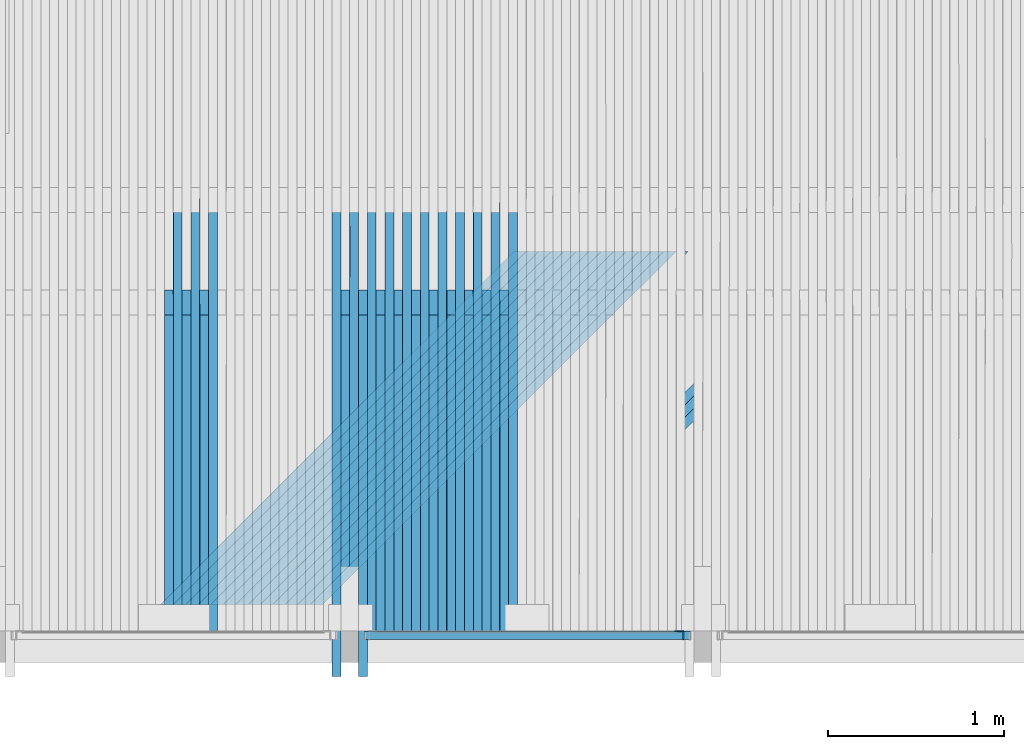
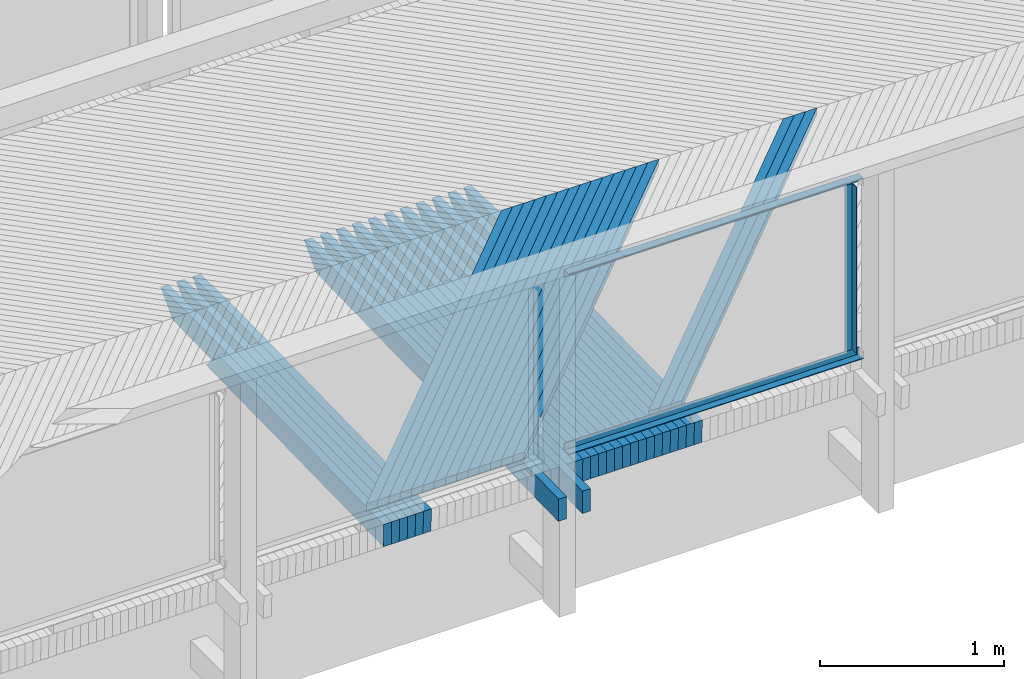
# One storey, part 32 of 65: 47 beams.
"""IFC2X3 building model written with IfcOpenShell, lengths in millimetres."""

from ifc_helpers import new_model, si_unit, frame, origin_with_axes, place, context, subcontext, project, spatial, faceted_brep, material, type_object, element, save


model = new_model("IFC2X3")

# Units and contexts
model_context = context("Model", 3, precision=1e-05, world=origin_with_axes())
body_context = subcontext(model_context, "Body", "Model", "MODEL_VIEW")
ifc_project = project(units=[si_unit("LENGTHUNIT", "METRE", prefix="MILLI"), si_unit("AREAUNIT", "SQUARE_METRE"), si_unit("VOLUMEUNIT", "CUBIC_METRE"), si_unit("MASSUNIT", "GRAM", prefix="KILO"), si_unit("TIMEUNIT", "SECOND"), si_unit("PLANEANGLEUNIT", "RADIAN"), si_unit("SOLIDANGLEUNIT", "STERADIAN"), si_unit("THERMODYNAMICTEMPERATUREUNIT", "DEGREE_CELSIUS"), si_unit("LUMINOUSINTENSITYUNIT", "LUMEN")], contexts=[model_context])

# Site, building, storey
site_placement = place(None, origin_with_axes())
site = spatial("IfcSite", under=ifc_project, at=site_placement, Name="Undefined", CompositionType="ELEMENT")
building_placement = place(site_placement, origin_with_axes())
building = spatial("IfcBuilding", under=site, at=building_placement, Name="Undefined", CompositionType="ELEMENT")
storey_placement = place(building_placement, origin_with_axes())
storey = spatial("IfcBuildingStorey", under=building, at=storey_placement, Name="Undefined", CompositionType="ELEMENT", Elevation=0.0)

# Beams
ifc_material_1 = material(Name="STEEL/S235JR")
beam_type_1 = type_object("IfcBeamType", Name="L50*5", PredefinedType="NOTDEFINED")
beam_1_placement = place(storey_placement, frame((11867.5024948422, 20190.01, 4403.68498261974), z_axis=(0.0, -1.0, 0.0), x_axis=(0.0, 0.0, -1.0)))
element("IfcBeam", 1, at=beam_1_placement, inside=storey, type_object=beam_type_1, material=ifc_material_1, Name="BEAM", ObjectType="L50*5", context=body_context, shape_type="Brep", body=[
    faceted_brep([(0.0, 25.0, -25.0), (0.0, 25.0, 25.0), (1099.9997751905, 25.0, 25.0), (1099.9997751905, 25.0, -25.0), (0.0, 20.0, 25.0), (1099.9997751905, 20.0, 25.0), (0.0, 20.0, -20.0), (1099.9997751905, 20.0, -20.0), (0.0, -25.0, -20.0), (1099.9997751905, -25.0, -20.0), (0.0, -25.0, -25.0), (1099.9997751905, -25.0, -25.0)], [[[0, 1, 2, 3]], [[1, 4, 5, 2]], [[4, 6, 7, 5]], [[6, 8, 9, 7]], [[8, 10, 11, 9]], [[10, 0, 3, 11]], [[5, 7, 9, 11, 3, 2]], [[10, 8, 6, 4, 1, 0]]]),
])
for number, where, z_axis, x_axis, name in (
    (2, (11932.1221121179, 20190.0100000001, 3278.48806628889), (0.0, -1.0, 0.0), (-0.999987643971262, 0.0, 0.00497110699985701), "BEAM"),
    (3, (10082.8790300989, 20190.0100000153, 4437.68111100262), (0.0, -1.0, 0.0), (0.999987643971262, 0.0, -0.00497110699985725), "BEAM"),
):
    element("IfcBeam", number, at=place(storey_placement, frame(where, z_axis=z_axis, x_axis=x_axis)), inside=storey, type_object=beam_type_1, material=ifc_material_1, Name=name, ObjectType="L50*5", context=body_context, shape_type="Brep", body=[
        faceted_brep([(0.0, 25.0, -25.0), (0.0, 25.0, 25.0), (1849.01737315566, 25.0, 25.0), (1849.01737315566, 25.0, -25.0), (0.0, 20.0, 25.0), (1849.01737315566, 20.0, 25.0), (0.0, 20.0, -20.0), (1849.01737315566, 20.0, -20.0), (0.0, -25.0, -20.0), (1849.01737315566, -25.0, -20.0), (0.0, -25.0, -25.0), (1849.01737315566, -25.0, -25.0)], [[[0, 1, 2, 3]], [[1, 4, 5, 2]], [[4, 6, 7, 5]], [[6, 8, 9, 7]], [[8, 10, 11, 9]], [[10, 0, 3, 11]], [[5, 7, 9, 11, 3, 2]], [[10, 8, 6, 4, 1, 0]]]),
    ])
ifc_material_2 = material(Name="TIMBER/Timber_Undefined")
beam_type_2 = type_object("IfcBeamType", Name="50*50", PredefinedType="NOTDEFINED")
for number, where, z_axis, x_axis, name in (
    (4, (12874.2769605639, 22364.5001003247, 3216.39230435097), (0.70698710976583, -0.706981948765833, -0.0185943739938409), (-0.707198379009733, -0.70694885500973, -0.0096834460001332), "BEAM"),
    (5, (12803.5550110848, 22364.5001003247, 3216.96068661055), (0.706989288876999, -0.706981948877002, -0.0185113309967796), (-0.707197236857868, -0.706948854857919, -0.00976651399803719), "BEAM"),
    (6, (12732.832995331, 22364.5001003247, 3217.52076181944), (0.706991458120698, -0.706981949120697, -0.0184282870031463), (-0.707196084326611, -0.706948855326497, -0.00984958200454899), "BEAM"),
    (7, (11884.1639920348, 22364.5001003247, 3223.59371167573), (0.707016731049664, -0.706981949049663, -0.0174317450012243), (-0.707181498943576, -0.706948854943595, -0.0108463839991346), "BEAM"),
    (8, (11813.441203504, 22364.5001003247, 3224.04579456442), (0.707018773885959, -0.706981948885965, -0.0173486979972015), (-0.707180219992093, -0.706948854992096, -0.0109294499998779), "BEAM"),
    (9, (11742.718362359, 22364.5001003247, 3224.48957030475), (0.707020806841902, -0.706981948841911, -0.0172656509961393), (-0.707178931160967, -0.706948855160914, -0.0110125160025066), "BEAM"),
    (10, (11671.9954695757, 22364.5001003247, 3224.92503889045), (0.707022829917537, -0.706981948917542, -0.017182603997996), (-0.707177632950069, -0.706948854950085, -0.0110955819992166), "BEAM"),
    (11, (11601.2725261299, 22364.5001003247, 3225.35220031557), (0.707024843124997, -0.706981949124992, -0.0170995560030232), (-0.707176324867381, -0.706948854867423, -0.0111786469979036), "BEAM"),
    (12, (11530.5495329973, 22364.5001003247, 3225.7710545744), (0.707026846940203, -0.706981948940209, -0.0170165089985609), (-0.707175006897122, -0.706948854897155, -0.0112617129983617), "BEAM"),
    (13, (11459.8264911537, 22364.5001003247, 3226.18160166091), (0.7070288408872, -0.706981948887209, -0.0169334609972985), (-0.707173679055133, -0.706948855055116, -0.0113447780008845), "BEAM"),
    (14, (11389.1034015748, 22364.5001003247, 3226.58384156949), (0.70703082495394, -0.706981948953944, -0.0168504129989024), (-0.70717234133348, -0.706948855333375, -0.011427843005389), "BEAM"),
    (15, (11318.3802652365, 22364.5001003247, 3226.97777429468), (0.707032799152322, -0.706981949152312, -0.0167673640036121), (-0.707170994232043, -0.70694885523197, -0.011510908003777), "BEAM"),
    (16, (11247.6570831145, 22364.5001003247, 3227.363399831), (0.707034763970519, -0.706981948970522, -0.0166843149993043), (-0.707169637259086, -0.706948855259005, -0.0115939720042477), "BEAM"),
    (17, (11176.9338561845, 22364.5001003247, 3227.7407181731), (0.707036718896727, -0.706981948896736, -0.0166012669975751), (-0.707168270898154, -0.706948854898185, -0.0116770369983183), "BEAM"),
    (18, (11106.2105854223, 22364.5001003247, 3228.10972931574), (0.707038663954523, -0.706981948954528, -0.0165182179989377), (-0.707166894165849, -0.706948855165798, -0.011760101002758), "BEAM"),
    (19, (11035.4872718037, 22364.5001003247, 3228.47043325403), (0.707040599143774, -0.706981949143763, -0.016435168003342), (-0.707165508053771, -0.706948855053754, -0.0118431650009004), "BEAM"),
    (20, (10964.7639163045, 22364.5001003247, 3228.82282998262), (0.707042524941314, -0.706981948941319, -0.0163521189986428), (-0.707164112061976, -0.706948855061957, -0.0119262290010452), "BEAM"),
):
    element("IfcBeam", number, at=place(storey_placement, frame(where, z_axis=z_axis, x_axis=x_axis)), inside=storey, type_object=beam_type_2, material=ifc_material_2, Name=name, ObjectType="50*50", context=body_context, shape_type="Brep", body=[
        faceted_brep([(24.8942457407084, 25.0000000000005, -25.0000000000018), (-25.0086637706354, 24.9999999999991, 25.0), (2804.3406783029, 25.0, 25.0000000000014), (2854.34301907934, 24.9999999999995, -25.0), (-26.4222658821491, -25.0000000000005, 25.0), (2802.92643296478, -25.0, 25.0000000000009), (23.4806436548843, -24.9999999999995, -25.0000000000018), (2852.92877373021, -25.0000000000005, -24.9999999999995)], [[[0, 1, 2, 3]], [[1, 4, 5, 2]], [[4, 6, 7, 5]], [[6, 0, 3, 7]], [[5, 7, 3, 2]], [[6, 4, 1, 0]]]),
    ])
beam_type_3 = type_object("IfcBeamType", Name="150*50", PredefinedType="NOTDEFINED")
beam_2_placement = place(storey_placement, frame((10875.1411031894, 20216.5046076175, 3086.28180497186), z_axis=(0.00469590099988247, -0.0199960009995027, 0.99978903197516), x_axis=(9.39180000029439e-05, 0.999800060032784, 0.0199957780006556)))
element("IfcBeam", 21, at=beam_2_placement, inside=storey, type_object=beam_type_3, material=ifc_material_2, Name="BEAM", ObjectType="150*50", context=body_context, shape_type="Brep", body=[
    faceted_brep([(-1.6778358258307e-07, -24.9999999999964, -74.9999999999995), (1.67790858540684e-07, -24.9999999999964, 75.0000000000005), (1.67790858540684e-07, 25.0000000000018, 74.9999999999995), (-1.6778358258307e-07, 25.0000000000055, -75.0), (1789.96936433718, -25.0000000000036, 74.9999999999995), (1789.96936408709, 24.9999999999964, 75.0), (1928.42646328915, 24.9999999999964, -75.0), (1928.42646353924, -25.0, -75.0000000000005)], [[[0, 1, 2, 3]], [[2, 1, 4, 5]], [[3, 2, 5, 6]], [[0, 3, 6, 7]], [[1, 0, 7, 4]], [[6, 5, 4, 7]]]),
])
beam_3_placement = place(storey_placement, frame((10925.1605446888, 20216.5046076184, 3086.03855962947), z_axis=(0.00486202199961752, -0.0199960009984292, 0.999788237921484), x_axis=(9.72400000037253e-05, 0.999800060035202, 0.019995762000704)))
element("IfcBeam", 22, at=beam_3_placement, inside=storey, type_object=beam_type_3, material=ifc_material_2, Name="BEAM", ObjectType="150*50", context=body_context, shape_type="Brep", body=[
    faceted_brep([(-1.6778358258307e-07, -24.9999999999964, -74.9999999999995), (1.67790858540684e-07, -24.9999999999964, 75.0000000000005), (1.67790858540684e-07, 25.0000000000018, 74.9999999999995), (-1.6778358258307e-07, 25.0000000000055, -75.0), (2375.00494422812, 25.0000000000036, -75.0), (2375.00494447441, -24.9999999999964, -74.9999999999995), (2510.59248714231, -24.9999999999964, 60.5875430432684), (2150.42514405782, -24.9999999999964, 75.0000000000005), (2150.42515052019, 25.0000000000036, 74.9999999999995), (2510.59248715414, 25.0000000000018, 60.5875433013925)], [[[0, 1, 2, 3]], [[0, 3, 4, 5]], [[1, 0, 5, 6, 7]], [[2, 1, 7, 8]], [[4, 3, 2, 8, 9]], [[5, 4, 9, 6]], [[6, 9, 8, 7]]]),
])
beam_4_placement = place(storey_placement, frame((10775.1221713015, 20216.5046076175, 3086.75121569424), z_axis=(0.00452978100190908, -0.01999600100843, 0.999789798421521), x_axis=(9.05950000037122e-05, 0.999800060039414, 0.0199957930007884)))
element("IfcBeam", 23, at=beam_4_placement, inside=storey, type_object=beam_type_3, material=ifc_material_2, Name="BEAM", ObjectType="150*50", context=body_context, shape_type="Brep", body=[
    faceted_brep([(-1.6778358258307e-07, -24.9999999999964, -74.9999999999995), (1.67790858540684e-07, -24.9999999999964, 75.0000000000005), (1.67790858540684e-07, 25.0000000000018, 74.9999999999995), (-1.6778358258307e-07, 25.0000000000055, -75.0), (1789.96936433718, -25.0000000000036, 74.9999999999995), (1789.96936408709, 24.9999999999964, 75.0), (1928.42646328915, 24.9999999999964, -75.0), (1928.42646353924, -25.0, -75.0000000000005)], [[[0, 1, 2, 3]], [[2, 1, 4, 5]], [[3, 2, 5, 6]], [[0, 3, 6, 7]], [[1, 0, 7, 4]], [[6, 5, 4, 7]]]),
])
beam_5_placement = place(storey_placement, frame((10825.141652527, 20216.5046076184, 3086.51628135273), z_axis=(0.00469590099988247, -0.0199960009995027, 0.99978903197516), x_axis=(9.39180000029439e-05, 0.999800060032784, 0.0199957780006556)))
element("IfcBeam", 24, at=beam_5_placement, inside=storey, type_object=beam_type_3, material=ifc_material_2, Name="BEAM", ObjectType="150*50", context=body_context, shape_type="Brep", body=[
    faceted_brep([(-1.6778358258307e-07, -24.9999999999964, -74.9999999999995), (1.67790858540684e-07, -24.9999999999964, 75.0000000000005), (1.67790858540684e-07, 25.0000000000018, 74.9999999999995), (-1.6778358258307e-07, 25.0000000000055, -75.0), (2375.00494422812, 25.0000000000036, -75.0), (2375.00494447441, -24.9999999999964, -74.9999999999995), (2510.59248714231, -24.9999999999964, 60.5875430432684), (2150.42514405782, -24.9999999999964, 75.0000000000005), (2150.42515052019, 25.0000000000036, 74.9999999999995), (2510.59248715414, 25.0000000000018, 60.5875433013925)], [[[0, 1, 2, 3]], [[0, 3, 4, 5]], [[1, 0, 5, 6, 7]], [[2, 1, 7, 8]], [[4, 3, 2, 8, 9]], [[5, 4, 9, 6]], [[6, 9, 8, 7]]]),
])
beam_6_placement = place(storey_placement, frame((10675.1031627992, 20216.5046076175, 3087.20400773), z_axis=(0.00436366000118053, -0.0199960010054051, 0.999790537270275), x_axis=(8.72730000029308e-05, 0.999800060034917, 0.0199958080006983)))
element("IfcBeam", 25, at=beam_6_placement, inside=storey, type_object=beam_type_3, material=ifc_material_2, Name="BEAM", ObjectType="150*50", context=body_context, shape_type="Brep", body=[
    faceted_brep([(-1.6778358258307e-07, -24.9999999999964, -74.9999999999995), (1.67790858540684e-07, -24.9999999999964, 75.0000000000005), (1.67790858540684e-07, 25.0000000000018, 74.9999999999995), (-1.6778358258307e-07, 25.0000000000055, -75.0), (1789.96936433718, -25.0000000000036, 74.9999999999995), (1789.96936408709, 24.9999999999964, 75.0), (1928.42646328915, 24.9999999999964, -75.0), (1928.42646353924, -25.0, -75.0000000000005)], [[[0, 1, 2, 3]], [[2, 1, 4, 5]], [[3, 2, 5, 6]], [[0, 3, 6, 7]], [[1, 0, 7, 4]], [[6, 5, 4, 7]]]),
])
beam_7_placement = place(storey_placement, frame((10725.1226823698, 20216.5046076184, 3086.9773843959), z_axis=(0.00452978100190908, -0.01999600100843, 0.999789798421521), x_axis=(9.05950000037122e-05, 0.999800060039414, 0.0199957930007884)))
element("IfcBeam", 26, at=beam_7_placement, inside=storey, type_object=beam_type_3, material=ifc_material_2, Name="BEAM", ObjectType="150*50", context=body_context, shape_type="Brep", body=[
    faceted_brep([(-1.6778358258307e-07, -24.9999999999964, -74.9999999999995), (1.67790858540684e-07, -24.9999999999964, 75.0000000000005), (1.67790858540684e-07, 25.0000000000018, 74.9999999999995), (-1.6778358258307e-07, 25.0000000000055, -75.0), (2375.00494422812, 25.0000000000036, -75.0), (2375.00494447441, -24.9999999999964, -74.9999999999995), (2510.59248714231, -24.9999999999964, 60.5875430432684), (2150.42514405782, -24.9999999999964, 75.0000000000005), (2150.42515052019, 25.0000000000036, 74.9999999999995), (2510.59248715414, 25.0000000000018, 60.5875433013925)], [[[0, 1, 2, 3]], [[0, 3, 4, 5]], [[1, 0, 5, 6, 7]], [[2, 1, 7, 8]], [[4, 3, 2, 8, 9]], [[5, 4, 9, 6]], [[6, 9, 8, 7]]]),
])
beam_8_placement = place(storey_placement, frame((10575.0840804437, 20216.5046076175, 3087.64018106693), z_axis=(0.00419753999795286, -0.0199960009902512, 0.99979124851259), x_axis=(8.39510000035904e-05, 0.999800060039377, 0.0199958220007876)))
element("IfcBeam", 27, at=beam_8_placement, inside=storey, type_object=beam_type_3, material=ifc_material_2, Name="BEAM", ObjectType="150*50", context=body_context, shape_type="Brep", body=[
    faceted_brep([(-1.6778358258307e-07, -24.9999999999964, -74.9999999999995), (1.67790858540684e-07, -24.9999999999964, 75.0000000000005), (1.67790858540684e-07, 25.0000000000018, 74.9999999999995), (-1.6778358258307e-07, 25.0000000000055, -75.0), (1789.96936433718, -25.0000000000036, 74.9999999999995), (1789.96936408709, 24.9999999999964, 75.0), (1928.42646328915, 24.9999999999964, -75.0), (1928.42646353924, -25.0, -75.0000000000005)], [[[0, 1, 2, 3]], [[2, 1, 4, 5]], [[3, 2, 5, 6]], [[0, 3, 6, 7]], [[1, 0, 7, 4]], [[6, 5, 4, 7]]]),
])
beam_9_placement = place(storey_placement, frame((10625.1036369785, 20216.5046076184, 3087.4218687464), z_axis=(0.00436366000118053, -0.0199960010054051, 0.999790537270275), x_axis=(8.72730000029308e-05, 0.999800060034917, 0.0199958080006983)))
element("IfcBeam", 28, at=beam_9_placement, inside=storey, type_object=beam_type_3, material=ifc_material_2, Name="BEAM", ObjectType="150*50", context=body_context, shape_type="Brep", body=[
    faceted_brep([(-1.6778358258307e-07, -24.9999999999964, -74.9999999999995), (1.67790858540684e-07, -24.9999999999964, 75.0000000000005), (1.67790858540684e-07, 25.0000000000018, 74.9999999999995), (-1.6778358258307e-07, 25.0000000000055, -75.0), (2375.00494422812, 25.0000000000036, -75.0), (2375.00494447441, -24.9999999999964, -74.9999999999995), (2510.59248714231, -24.9999999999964, 60.5875430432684), (2150.42514405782, -24.9999999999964, 75.0000000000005), (2150.42515052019, 25.0000000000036, 74.9999999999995), (2510.59248715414, 25.0000000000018, 60.5875433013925)], [[[0, 1, 2, 3]], [[0, 3, 4, 5]], [[1, 0, 5, 6, 7]], [[2, 1, 7, 8]], [[4, 3, 2, 8, 9]], [[5, 4, 9, 6]], [[6, 9, 8, 7]]]),
])
beam_10_placement = place(storey_placement, frame((10475.0649269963, 20216.5046076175, 3088.05973569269), z_axis=(0.00403141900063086, -0.0199960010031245, 0.999791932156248), x_axis=(8.06280000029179e-05, 0.999800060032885, 0.0199958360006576)))
element("IfcBeam", 29, at=beam_10_placement, inside=storey, type_object=beam_type_3, material=ifc_material_2, Name="BEAM", ObjectType="150*50", context=body_context, shape_type="Brep", body=[
    faceted_brep([(-1.6778358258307e-07, -24.9999999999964, -74.9999999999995), (1.67790858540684e-07, -24.9999999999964, 75.0000000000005), (1.67790858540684e-07, 25.0000000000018, 74.9999999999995), (-1.6778358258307e-07, 25.0000000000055, -75.0), (1789.96936433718, -25.0000000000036, 74.9999999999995), (1789.96936408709, 24.9999999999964, 75.0), (1928.42646328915, 24.9999999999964, -75.0), (1928.42646353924, -25.0, -75.0000000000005)], [[[0, 1, 2, 3]], [[2, 1, 4, 5]], [[3, 2, 5, 6]], [[0, 3, 6, 7]], [[1, 0, 7, 4]], [[6, 5, 4, 7]]]),
])
beam_11_placement = place(storey_placement, frame((10525.0845191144, 20216.5046076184, 3087.84973439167), z_axis=(0.00419753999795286, -0.0199960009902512, 0.99979124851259), x_axis=(8.39510000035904e-05, 0.999800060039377, 0.0199958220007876)))
element("IfcBeam", 30, at=beam_11_placement, inside=storey, type_object=beam_type_3, material=ifc_material_2, Name="BEAM", ObjectType="150*50", context=body_context, shape_type="Brep", body=[
    faceted_brep([(-1.6778358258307e-07, -24.9999999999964, -74.9999999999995), (1.67790858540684e-07, -24.9999999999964, 75.0000000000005), (1.67790858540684e-07, 25.0000000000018, 74.9999999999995), (-1.6778358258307e-07, 25.0000000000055, -75.0), (2375.00494422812, 25.0000000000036, -75.0), (2375.00494447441, -24.9999999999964, -74.9999999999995), (2510.59248714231, -24.9999999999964, 60.5875430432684), (2150.42514405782, -24.9999999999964, 75.0000000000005), (2150.42515052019, 25.0000000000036, 74.9999999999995), (2510.59248715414, 25.0000000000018, 60.5875433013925)], [[[0, 1, 2, 3]], [[0, 3, 4, 5]], [[1, 0, 5, 6, 7]], [[2, 1, 7, 8]], [[4, 3, 2, 8, 9]], [[5, 4, 9, 6]], [[6, 9, 8, 7]]]),
])
beam_12_placement = place(storey_placement, frame((10375.0457052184, 20216.5046076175, 3088.46267159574), z_axis=(0.00386529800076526, -0.0199960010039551, 0.99979258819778), x_axis=(7.73060000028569e-05, 0.999800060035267, 0.0199958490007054)))
element("IfcBeam", 31, at=beam_12_placement, inside=storey, type_object=beam_type_3, material=ifc_material_2, Name="BEAM", ObjectType="150*50", context=body_context, shape_type="Brep", body=[
    faceted_brep([(-1.6778358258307e-07, -24.9999999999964, -74.9999999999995), (1.67790858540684e-07, -24.9999999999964, 75.0000000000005), (1.67790858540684e-07, 25.0000000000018, 74.9999999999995), (-1.6778358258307e-07, 25.0000000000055, -75.0), (1789.96936433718, -25.0000000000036, 74.9999999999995), (1789.96936408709, 24.9999999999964, 75.0), (1928.42646328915, 24.9999999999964, -75.0), (1928.42646353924, -25.0, -75.0000000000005)], [[[0, 1, 2, 3]], [[2, 1, 4, 5]], [[3, 2, 5, 6]], [[0, 3, 6, 7]], [[1, 0, 7, 4]], [[6, 5, 4, 7]]]),
])
beam_13_placement = place(storey_placement, frame((10425.0653315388, 20216.5046076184, 3088.26098132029), z_axis=(0.00403141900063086, -0.0199960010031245, 0.999791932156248), x_axis=(8.06280000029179e-05, 0.999800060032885, 0.0199958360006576)))
element("IfcBeam", 32, at=beam_13_placement, inside=storey, type_object=beam_type_3, material=ifc_material_2, Name="BEAM", ObjectType="150*50", context=body_context, shape_type="Brep", body=[
    faceted_brep([(-1.6778358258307e-07, -24.9999999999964, -74.9999999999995), (1.67790858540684e-07, -24.9999999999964, 75.0000000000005), (1.67790858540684e-07, 25.0000000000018, 74.9999999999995), (-1.6778358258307e-07, 25.0000000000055, -75.0), (2375.00494422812, 25.0000000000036, -75.0), (2375.00494447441, -24.9999999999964, -74.9999999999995), (2510.59248714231, -24.9999999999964, 60.5875430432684), (2150.42514405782, -24.9999999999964, 75.0000000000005), (2150.42515052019, 25.0000000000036, 74.9999999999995), (2510.59248715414, 25.0000000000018, 60.5875433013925)], [[[0, 1, 2, 3]], [[0, 3, 4, 5]], [[1, 0, 5, 6, 7]], [[2, 1, 7, 8]], [[4, 3, 2, 8, 9]], [[5, 4, 9, 6]], [[6, 9, 8, 7]]]),
])
beam_14_placement = place(storey_placement, frame((10275.0264178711, 20216.5046076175, 3088.84898876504), z_axis=(0.00369917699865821, -0.0199960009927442, 0.999793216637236), x_axis=(7.39830000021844e-05, 0.999800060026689, 0.0199958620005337)))
element("IfcBeam", 33, at=beam_14_placement, inside=storey, type_object=beam_type_3, material=ifc_material_2, Name="BEAM", ObjectType="150*50", context=body_context, shape_type="Brep", body=[
    faceted_brep([(-1.6778358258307e-07, -24.9999999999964, -74.9999999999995), (1.67790858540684e-07, -24.9999999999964, 75.0000000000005), (1.67790858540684e-07, 25.0000000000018, 74.9999999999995), (-1.6778358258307e-07, 25.0000000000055, -75.0), (1789.96936433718, -25.0000000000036, 74.9999999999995), (1789.96936408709, 24.9999999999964, 75.0), (1928.42646328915, 24.9999999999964, -75.0), (1928.42646353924, -25.0, -75.0000000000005)], [[[0, 1, 2, 3]], [[2, 1, 4, 5]], [[3, 2, 5, 6]], [[0, 3, 6, 7]], [[1, 0, 7, 4]], [[6, 5, 4, 7]]]),
])
beam_15_placement = place(storey_placement, frame((10325.046077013, 20216.5046076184, 3088.65560952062), z_axis=(0.00386529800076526, -0.0199960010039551, 0.99979258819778), x_axis=(7.73060000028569e-05, 0.999800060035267, 0.0199958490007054)))
element("IfcBeam", 34, at=beam_15_placement, inside=storey, type_object=beam_type_3, material=ifc_material_2, Name="BEAM", ObjectType="150*50", context=body_context, shape_type="Brep", body=[
    faceted_brep([(-1.6778358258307e-07, -24.9999999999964, -74.9999999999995), (1.67790858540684e-07, -24.9999999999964, 75.0000000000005), (1.67790858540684e-07, 25.0000000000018, 74.9999999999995), (-1.6778358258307e-07, 25.0000000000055, -75.0), (2375.00494422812, 25.0000000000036, -75.0), (2375.00494447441, -24.9999999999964, -74.9999999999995), (2510.59248714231, -24.9999999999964, 60.5875430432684), (2150.42514405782, -24.9999999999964, 75.0000000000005), (2150.42515052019, 25.0000000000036, 74.9999999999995), (2510.59248715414, 25.0000000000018, 60.5875433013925)], [[[0, 1, 2, 3]], [[0, 3, 4, 5]], [[1, 0, 5, 6, 7]], [[2, 1, 7, 8]], [[4, 3, 2, 8, 9]], [[5, 4, 9, 6]], [[6, 9, 8, 7]]]),
])
beam_16_placement = place(storey_placement, frame((10175.0070677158, 20216.5046076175, 3089.21868718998), z_axis=(0.00353305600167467, -0.0199960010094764, 0.999793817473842), x_axis=(7.06610000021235e-05, 0.999800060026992, 0.0199958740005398)))
element("IfcBeam", 35, at=beam_16_placement, inside=storey, type_object=beam_type_3, material=ifc_material_2, Name="BEAM", ObjectType="150*50", context=body_context, shape_type="Brep", body=[
    faceted_brep([(-1.6778358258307e-07, -24.9999999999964, -74.9999999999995), (1.67790858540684e-07, -24.9999999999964, 75.0000000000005), (1.67790858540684e-07, 25.0000000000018, 74.9999999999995), (-1.6778358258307e-07, 25.0000000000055, -75.0), (1789.96936433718, -25.0000000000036, 74.9999999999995), (1789.96936408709, 24.9999999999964, 75.0), (1928.42646328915, 24.9999999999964, -75.0), (1928.42646353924, -25.0, -75.0000000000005)], [[[0, 1, 2, 3]], [[2, 1, 4, 5]], [[3, 2, 5, 6]], [[0, 3, 6, 7]], [[1, 0, 7, 4]], [[6, 5, 4, 7]]]),
])
for number, where, z_axis, x_axis, name in (
    (36, (10225.0267582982, 20216.5046076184, 3089.03361898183), (0.00369917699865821, -0.0199960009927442, 0.999793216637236), (7.39830000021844e-05, 0.999800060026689, 0.0199958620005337), "BEAM"),
    (37, (10125.0073781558, 20216.5046076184, 3089.39500969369), (0.00353305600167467, -0.0199960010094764, 0.999793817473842), (7.06610000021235e-05, 0.999800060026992, 0.0199958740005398), "BEAM"),
):
    element("IfcBeam", number, at=place(storey_placement, frame(where, z_axis=z_axis, x_axis=x_axis)), inside=storey, type_object=beam_type_3, material=ifc_material_2, Name=name, ObjectType="150*50", context=body_context, shape_type="Brep", body=[
        faceted_brep([(-1.6778358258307e-07, -24.9999999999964, -74.9999999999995), (1.67790858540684e-07, -24.9999999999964, 75.0000000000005), (1.67790858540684e-07, 25.0000000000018, 74.9999999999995), (-1.6778358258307e-07, 25.0000000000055, -75.0), (2375.00494422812, 25.0000000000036, -75.0), (2375.00494447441, -24.9999999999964, -74.9999999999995), (2510.59248714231, -24.9999999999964, 60.5875430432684), (2150.42514405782, -24.9999999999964, 75.0000000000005), (2150.42515052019, 25.0000000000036, 74.9999999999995), (2510.59248715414, 25.0000000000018, 60.5875433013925)], [[[0, 1, 2, 3]], [[0, 3, 4, 5]], [[1, 0, 5, 6, 7]], [[2, 1, 7, 8]], [[4, 3, 2, 8, 9]], [[5, 4, 9, 6]], [[6, 9, 8, 7]]]),
    ])
beam_17_placement = place(storey_placement, frame((9974.96819002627, 20216.5046076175, 3089.90822776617), z_axis=(0.00320081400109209, -0.0199960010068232, 0.999794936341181), x_axis=(6.40160000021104e-05, 0.999800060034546, 0.0199958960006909)))
element("IfcBeam", 38, at=beam_17_placement, inside=storey, type_object=beam_type_3, material=ifc_material_2, Name="BEAM", ObjectType="150*50", context=body_context, shape_type="Brep", body=[
    faceted_brep([(-1.6778358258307e-07, -24.9999999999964, -74.9999999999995), (1.67790858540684e-07, -24.9999999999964, 75.0000000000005), (1.67790858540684e-07, 25.0000000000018, 74.9999999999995), (-1.6778358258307e-07, 25.0000000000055, -75.0), (1789.96936433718, -25.0000000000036, 74.9999999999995), (1789.96936408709, 24.9999999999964, 75.0), (1928.42646328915, 24.9999999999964, -75.0), (1928.42646353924, -25.0, -75.0000000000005)], [[[0, 1, 2, 3]], [[2, 1, 4, 5]], [[3, 2, 5, 6]], [[0, 3, 6, 7]], [[1, 0, 7, 4]], [[6, 5, 4, 7]]]),
])
beam_18_placement = place(storey_placement, frame((10024.987939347, 20216.5046076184, 3089.73978164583), z_axis=(0.00336693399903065, -0.0199960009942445, 0.999794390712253), x_axis=(6.73390000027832e-05, 0.999800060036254, 0.0199958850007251)))
element("IfcBeam", 39, at=beam_18_placement, inside=storey, type_object=beam_type_3, material=ifc_material_2, Name="BEAM", ObjectType="150*50", context=body_context, shape_type="Brep", body=[
    faceted_brep([(-1.6778358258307e-07, -24.9999999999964, -74.9999999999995), (1.67790858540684e-07, -24.9999999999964, 75.0000000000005), (1.67790858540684e-07, 25.0000000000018, 74.9999999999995), (-1.6778358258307e-07, 25.0000000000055, -75.0), (2375.00494422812, 25.0000000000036, -75.0), (2375.00494447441, -24.9999999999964, -74.9999999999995), (2510.59248714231, -24.9999999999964, 60.5875430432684), (2150.42514405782, -24.9999999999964, 75.0000000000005), (2150.42515052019, 25.0000000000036, 74.9999999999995), (2510.59248715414, 25.0000000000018, 60.5875433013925)], [[[0, 1, 2, 3]], [[0, 3, 4, 5]], [[1, 0, 5, 6, 7]], [[2, 1, 7, 8]], [[4, 3, 2, 8, 9]], [[5, 4, 9, 6]], [[6, 9, 8, 7]]]),
])
beam_19_placement = place(storey_placement, frame((9175.41071867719, 20216.5046076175, 3092.00243602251), z_axis=(0.00187184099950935, -0.0199960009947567, 0.999798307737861), x_axis=(3.7436000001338e-05, 0.999800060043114, 0.0199959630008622)))
element("IfcBeam", 40, at=beam_19_placement, inside=storey, type_object=beam_type_3, material=ifc_material_2, Name="BEAM", ObjectType="150*50", context=body_context, shape_type="Brep", body=[
    faceted_brep([(-1.6778358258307e-07, -24.9999999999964, -74.9999999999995), (1.67790858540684e-07, -24.9999999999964, 75.0000000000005), (1.67790858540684e-07, 25.0000000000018, 74.9999999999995), (-1.6778358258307e-07, 25.0000000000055, -75.0), (1789.96936433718, -25.0000000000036, 74.9999999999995), (1789.96936408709, 24.9999999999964, 75.0), (1928.42646328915, 24.9999999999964, -75.0), (1928.42646353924, -25.0, -75.0000000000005)], [[[0, 1, 2, 3]], [[2, 1, 4, 5]], [[3, 2, 5, 6]], [[0, 3, 6, 7]], [[1, 0, 7, 4]], [[6, 5, 4, 7]]]),
])
beam_20_placement = place(storey_placement, frame((9225.43064771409, 20216.5046076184, 3091.9004784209), z_axis=(0.00203796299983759, -0.0199960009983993, 0.999797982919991), x_axis=(4.07590000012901e-05, 0.999800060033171, 0.0199959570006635)))
element("IfcBeam", 41, at=beam_20_placement, inside=storey, type_object=beam_type_3, material=ifc_material_2, Name="BEAM", ObjectType="150*50", context=body_context, shape_type="Brep", body=[
    faceted_brep([(-1.6778358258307e-07, -24.9999999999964, -74.9999999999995), (1.67790858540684e-07, -24.9999999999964, 75.0000000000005), (1.67790858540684e-07, 25.0000000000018, 74.9999999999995), (-1.6778358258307e-07, 25.0000000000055, -75.0), (2375.00494422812, 25.0000000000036, -75.0), (2375.00494447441, -24.9999999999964, -74.9999999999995), (2510.59248714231, -24.9999999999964, 60.5875430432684), (2150.42520082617, -25.0000000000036, 75.0000000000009), (2150.42520094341, 25.0, 75.0000000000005), (2510.59248715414, 25.0000000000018, 60.5875433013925)], [[[0, 1, 2, 3]], [[0, 3, 4, 5]], [[1, 0, 5, 6, 7]], [[2, 1, 7, 8]], [[4, 3, 2, 8, 9]], [[5, 4, 9, 6]], [[8, 7, 6, 9]]]),
])
beam_21_placement = place(storey_placement, frame((9075.39085973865, 20216.5046076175, 3092.18942737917), z_axis=(0.00170571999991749, -0.0199960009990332, 0.999798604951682), x_axis=(3.41140000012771e-05, 0.999800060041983, 0.0199959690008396)))
element("IfcBeam", 42, at=beam_21_placement, inside=storey, type_object=beam_type_3, material=ifc_material_2, Name="BEAM", ObjectType="150*50", context=body_context, shape_type="Brep", body=[
    faceted_brep([(-1.6778358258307e-07, -24.9999999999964, -74.9999999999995), (1.67790858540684e-07, -24.9999999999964, 75.0000000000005), (1.67790858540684e-07, 25.0000000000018, 74.9999999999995), (-1.6778358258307e-07, 25.0000000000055, -75.0), (1789.96936433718, -25.0000000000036, 74.9999999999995), (1789.96936408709, 24.9999999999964, 75.0), (1928.42646328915, 24.9999999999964, -75.0), (1928.42646353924, -25.0, -75.0000000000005)], [[[0, 1, 2, 3]], [[2, 1, 4, 5]], [[3, 2, 5, 6]], [[0, 3, 6, 7]], [[1, 0, 7, 4]], [[6, 5, 4, 7]]]),
])
beam_22_placement = place(storey_placement, frame((9125.41080502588, 20216.5046076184, 3092.09578085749), z_axis=(0.00187184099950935, -0.0199960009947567, 0.999798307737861), x_axis=(3.7436000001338e-05, 0.999800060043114, 0.0199959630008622)))
element("IfcBeam", 43, at=beam_22_placement, inside=storey, type_object=beam_type_3, material=ifc_material_2, Name="BEAM", ObjectType="150*50", context=body_context, shape_type="Brep", body=[
    faceted_brep([(-1.6778358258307e-07, -24.9999999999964, -74.9999999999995), (1.67790858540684e-07, -24.9999999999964, 75.0000000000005), (1.67790858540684e-07, 25.0000000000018, 74.9999999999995), (-1.6778358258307e-07, 25.0000000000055, -75.0), (2375.00494422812, 25.0000000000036, -75.0), (2375.00494447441, -24.9999999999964, -74.9999999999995), (2510.59248714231, -24.9999999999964, 60.5875430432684), (2150.42514405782, -24.9999999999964, 75.0000000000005), (2150.42515052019, 25.0000000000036, 74.9999999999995), (2510.59248715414, 25.0000000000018, 60.5875433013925)], [[[0, 1, 2, 3]], [[0, 3, 4, 5]], [[1, 0, 5, 6, 7]], [[2, 1, 7, 8]], [[4, 3, 2, 8, 9]], [[5, 4, 9, 6]], [[6, 9, 8, 7]]]),
])
beam_23_placement = place(storey_placement, frame((8975.37097111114, 20216.5046076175, 3092.35979989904), z_axis=(0.00153959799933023, -0.0199960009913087, 0.999798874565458), x_axis=(3.0791000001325e-05, 0.999800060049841, 0.0199959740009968)))
element("IfcBeam", 44, at=beam_23_placement, inside=storey, type_object=beam_type_3, material=ifc_material_2, Name="BEAM", ObjectType="150*50", context=body_context, shape_type="Brep", body=[
    faceted_brep([(-1.6778358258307e-07, -24.9999999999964, -74.9999999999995), (1.67790858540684e-07, -24.9999999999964, 75.0000000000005), (1.67790858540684e-07, 25.0000000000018, 74.9999999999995), (-1.6778358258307e-07, 25.0000000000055, -75.0), (1928.42646353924, -25.0, -75.0000000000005), (1789.96936433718, -25.0000000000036, 74.9999999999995), (1789.96936408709, 24.9999999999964, 75.0), (1928.42646328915, 24.9999999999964, -75.0)], [[[0, 1, 2, 3]], [[1, 0, 4, 5]], [[2, 1, 5, 6]], [[3, 2, 6, 7]], [[0, 3, 7, 4]], [[7, 6, 5, 4]]]),
])
beam_24_placement = place(storey_placement, frame((9025.39093126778, 20216.5046076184, 3092.27446445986), z_axis=(0.00170571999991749, -0.0199960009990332, 0.999798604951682), x_axis=(3.41140000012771e-05, 0.999800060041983, 0.0199959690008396)))
element("IfcBeam", 45, at=beam_24_placement, inside=storey, type_object=beam_type_3, material=ifc_material_2, Name="BEAM", ObjectType="150*50", context=body_context, shape_type="Brep", body=[
    faceted_brep([(-1.6778358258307e-07, -24.9999999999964, -74.9999999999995), (1.67790858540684e-07, -24.9999999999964, 75.0000000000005), (1.67790858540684e-07, 25.0000000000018, 74.9999999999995), (-1.6778358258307e-07, 25.0000000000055, -75.0), (2375.00494422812, 25.0000000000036, -75.0), (2375.00494447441, -24.9999999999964, -74.9999999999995), (2510.59248714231, -24.9999999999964, 60.5875430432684), (2150.42514405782, -24.9999999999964, 75.0000000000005), (2150.42515052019, 25.0000000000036, 74.9999999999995), (2510.59248715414, 25.0000000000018, 60.5875433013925)], [[[0, 1, 2, 3]], [[0, 3, 4, 5]], [[1, 0, 5, 6, 7]], [[2, 1, 7, 8]], [[4, 3, 2, 8, 9]], [[5, 4, 9, 6]], [[6, 9, 8, 7]]]),
])
beam_25_placement = place(storey_placement, frame((10075.045826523, 19958.5561921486, 3084.41227820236), z_axis=(0.00336693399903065, -0.0199960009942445, 0.999794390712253), x_axis=(6.73390000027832e-05, 0.999800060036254, 0.0199958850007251)))
element("IfcBeam", 46, at=beam_25_placement, inside=storey, type_object=beam_type_3, material=ifc_material_2, Name="BEAM", ObjectType="150*50", context=body_context, shape_type="Brep", body=[
    faceted_brep([(-1.6778358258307e-07, -24.9999999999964, -74.9999999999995), (1.67790858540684e-07, -24.9999999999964, 75.0000000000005), (1.67790858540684e-07, 25.0000000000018, 74.9999999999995), (-1.6778358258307e-07, 25.0000000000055, -75.0), (2047.96935255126, -25.0000000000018, 75.0000000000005), (2047.9693678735, 24.9999999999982, 75.0), (2186.42646676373, 24.9999999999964, -74.9999999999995), (2186.42645144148, -25.0000000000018, -75.0)], [[[0, 1, 2, 3]], [[2, 1, 4, 5]], [[3, 2, 5, 6]], [[0, 3, 6, 7]], [[1, 0, 7, 4]], [[6, 5, 4, 7]]]),
])
beam_26_placement = place(storey_placement, frame((9925.02661654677, 19958.5561921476, 3084.9090463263), z_axis=(0.00320081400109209, -0.0199960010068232, 0.999794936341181), x_axis=(6.40160000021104e-05, 0.999800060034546, 0.0199958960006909)))
element("IfcBeam", 47, at=beam_26_placement, inside=storey, type_object=beam_type_3, material=ifc_material_2, Name="BEAM", ObjectType="150*50", context=body_context, shape_type="Brep", body=[
    faceted_brep([(-1.6778358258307e-07, -24.9999999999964, -74.9999999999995), (1.67790858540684e-07, -24.9999999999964, 75.0000000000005), (1.67790858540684e-07, 25.0000000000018, 74.9999999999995), (-1.6778358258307e-07, 25.0000000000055, -75.0), (2633.00494750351, 24.9999999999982, -74.9999999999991), (2633.00494763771, -25.0000000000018, -74.9999999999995), (2768.59248713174, -25.0000000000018, 60.5875397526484), (2408.42500011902, -25.0, 75.0), (2408.42500056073, 25.0, 75.0), (2768.59248710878, 24.9999999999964, 60.587539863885)], [[[0, 1, 2, 3]], [[0, 3, 4, 5]], [[1, 0, 5, 6, 7]], [[2, 1, 7, 8]], [[4, 3, 2, 8, 9]], [[5, 4, 9, 6]], [[8, 7, 6, 9]]]),
])

save(model, "model.ifc")
